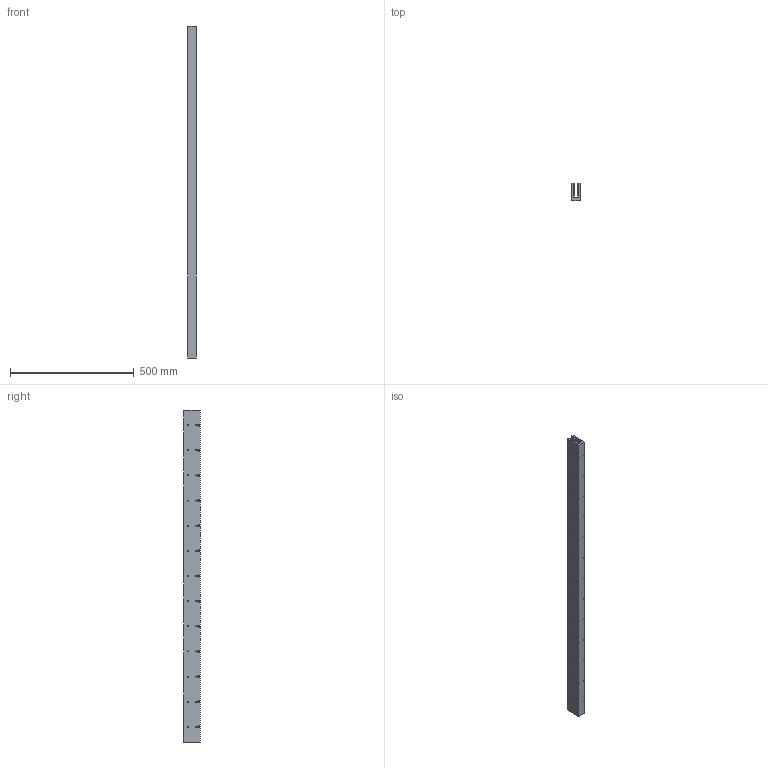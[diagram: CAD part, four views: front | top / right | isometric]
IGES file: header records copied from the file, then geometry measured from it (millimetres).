
Global section: file name: No Iges File Name specified; native system: Autodesk Inventor 2009; preprocessor: AutoDesk Inventor Iges Exporter R2009; author: je17857; date: 20091116.111716; units: inch
Bounding box: 34.29 x 67.31 x 1341.12 mm (x, y, z)
Volume: 2005492.7 mm3; surface area: 504076.8 mm2
Topology: 1 solids, 1 shells, 674 faces, 1626 edges, 1084 vertices
Faces by surface type: plane 466, bspline 208
